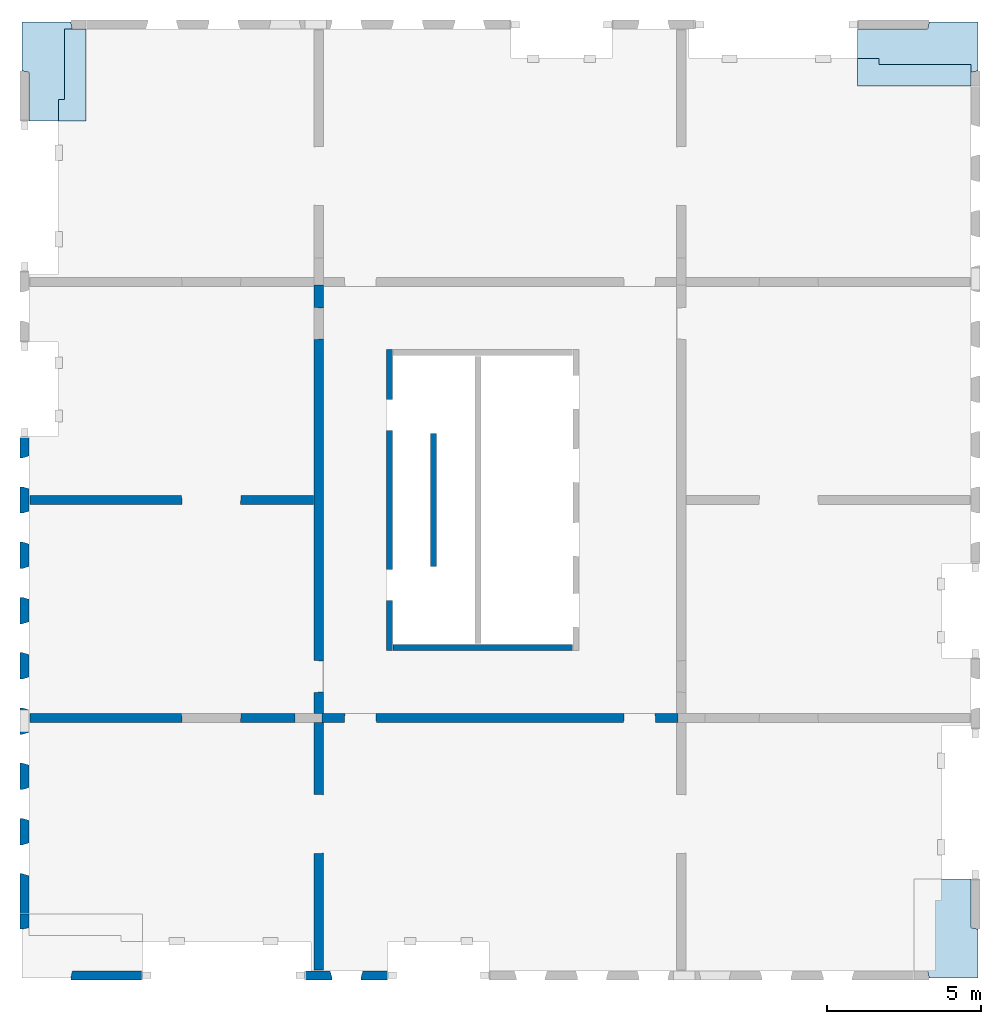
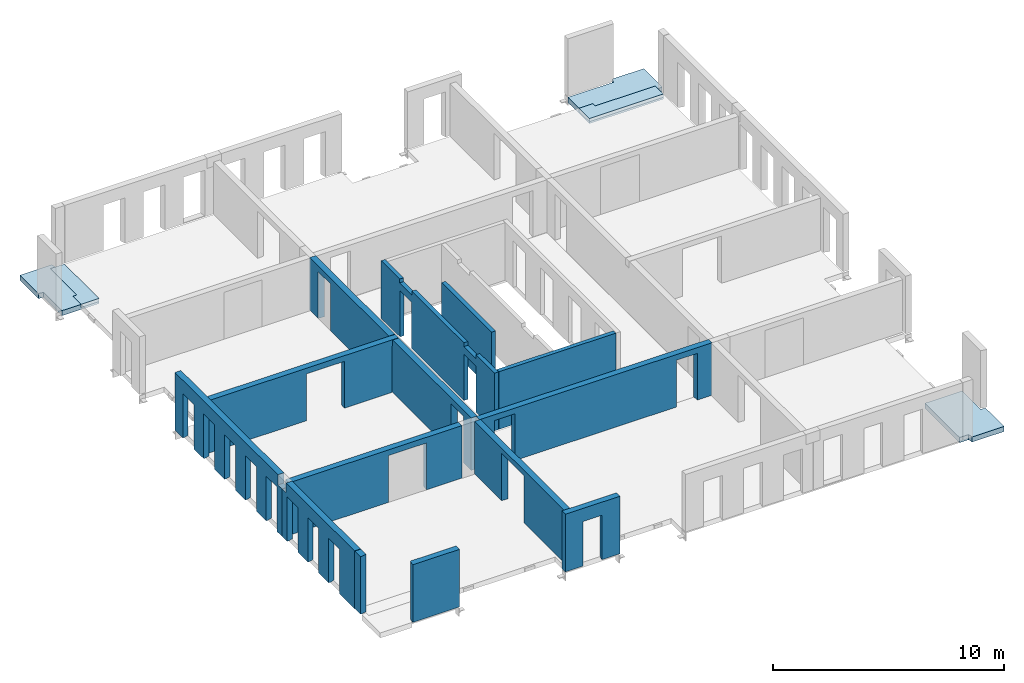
# One storey, part 2 of 4: 13 walls, 5 slabs, 26 openings.
"""IFC2X3 building model written with IfcOpenShell, lengths in millimetres."""

from ifc_helpers import new_model, entity, si_unit, converted_unit, derived_unit, direction, frame, frame_2d, origin, place, context, subcontext, project, spatial, polyline, rectangle, outline, extrude, faceted_brep, material, layer, layer_set, layer_usage, type_object, element, save


model = new_model("IFC2X3")

# Units and contexts
model_context = context("Model", 3, precision=0.01, world=origin(), true_north=direction((6.12303176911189e-17, 1.0)))
body_context = subcontext(model_context, "Body", "Model", "MODEL_VIEW")
ifc_project = project(units=[si_unit("LENGTHUNIT", "METRE", prefix="MILLI"), si_unit("AREAUNIT", "SQUARE_METRE"), si_unit("VOLUMEUNIT", "CUBIC_METRE"), converted_unit("PLANEANGLEUNIT", "DEGREE", entity("IfcRatioMeasure", 0.0174532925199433), si_unit("PLANEANGLEUNIT", "RADIAN"), dimensions=[0, 0, 0, 0, 0, 0, 0]), si_unit("MASSUNIT", "GRAM", prefix="KILO"), derived_unit("MASSDENSITYUNIT", [(si_unit("MASSUNIT", "GRAM", prefix="KILO"), 1), (si_unit("LENGTHUNIT", "METRE"), -3)]), si_unit("TIMEUNIT", "SECOND"), si_unit("FREQUENCYUNIT", "HERTZ"), si_unit("THERMODYNAMICTEMPERATUREUNIT", "DEGREE_CELSIUS"), derived_unit("THERMALTRANSMITTANCEUNIT", [(si_unit("MASSUNIT", "GRAM", prefix="KILO"), 1), (si_unit("THERMODYNAMICTEMPERATUREUNIT", "KELVIN"), -1), (si_unit("TIMEUNIT", "SECOND"), -3)]), derived_unit("VOLUMETRICFLOWRATEUNIT", [(si_unit("LENGTHUNIT", "METRE"), 3), (si_unit("TIMEUNIT", "SECOND"), -1)]), si_unit("ELECTRICCURRENTUNIT", "AMPERE"), si_unit("ELECTRICVOLTAGEUNIT", "VOLT"), si_unit("POWERUNIT", "WATT"), si_unit("FORCEUNIT", "NEWTON", prefix="KILO"), si_unit("ILLUMINANCEUNIT", "LUX"), si_unit("LUMINOUSFLUXUNIT", "LUMEN"), si_unit("LUMINOUSINTENSITYUNIT", "CANDELA"), derived_unit("USERDEFINED", [(si_unit("MASSUNIT", "GRAM", prefix="KILO"), -1), (si_unit("LENGTHUNIT", "METRE"), -2), (si_unit("TIMEUNIT", "SECOND"), 3), (si_unit("LUMINOUSFLUXUNIT", "LUMEN"), 1)]), derived_unit("LINEARVELOCITYUNIT", [(si_unit("LENGTHUNIT", "METRE"), 1), (si_unit("TIMEUNIT", "SECOND"), -1)]), si_unit("PRESSUREUNIT", "PASCAL"), derived_unit("USERDEFINED", [(si_unit("LENGTHUNIT", "METRE"), -2), (si_unit("MASSUNIT", "GRAM", prefix="KILO"), 1), (si_unit("TIMEUNIT", "SECOND"), -2)])], contexts=[model_context])

# Site, building, storey
site_placement = place(None, origin())
site = spatial("IfcSite", under=ifc_project, at=site_placement, Name="Default", CompositionType="ELEMENT")
building_placement = place(site_placement, origin())
building = spatial("IfcBuilding", under=site, at=building_placement, Name="niet gebruiken", CompositionType="ELEMENT")
storey_placement = place(building_placement, frame((0.0, 0.0, 128160.0)))
storey = spatial("IfcBuildingStorey", under=building, at=storey_placement, Name="41 eenenveertigste verdieping", CompositionType="ELEMENT", Elevation=128160.0)

# Slabs
ifc_material_1 = material(Name="NLRS_f2_beton prefab")
ifc_layer_1 = layer(ifc_material_1, 270.0)
ifc_layer_set_1 = layer_set([ifc_layer_1], Name="Floor:NLRS_23.22_FL_beton prefab d=270 3D element_gen")
ifc_layer_usage_1 = layer_usage(ifc_layer_set_1, "AXIS3", "POSITIVE", 0.0)
slab_1_placement = place(storey_placement, origin())
element("IfcSlab", 1, at=slab_1_placement, inside=storey, material=ifc_layer_usage_1, Name="Floor:NLRS_23.22_FL_beton prefab d=270 3D element_gen", ObjectType="Floor:NLRS_23.22_FL_beton prefab d=270 3D element_gen", PredefinedType="LANDING", context=body_context, shape_type="SweptSolid", body=[
    extrude(outline(polyline([(-322.675940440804, -982.471394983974), (1267.47139498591, -982.471394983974), (1267.47139498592, 607.675940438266), (1034.47139498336, 655.152429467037), (1034.47139498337, 1100.5286050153), (-1955.52860501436, 1100.52860501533), (-1955.52860501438, -749.471394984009), (-370.152429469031, -749.471394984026), (-322.675940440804, -982.471394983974)])), frame((127169.471394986, 31795.5286050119, -90.0), z_axis=(0.0, 0.0, -1.0), x_axis=(0.0, 1.0, 0.0)), (0.0, 0.0, 1.0), 270.000000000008),
])
ifc_material_2 = material(Name="NLRS_f2_beton ihwg")
ifc_layer_2 = layer(ifc_material_2, 170.0)
ifc_layer_set_2 = layer_set([ifc_layer_2], Name="Floor:NLRS_23.21_FL_beton ihwg d=170_gen")
ifc_layer_usage_2 = layer_usage(ifc_layer_set_2, "AXIS3", "POSITIVE", 0.0)
slab_2_placement = place(storey_placement, origin())
element("IfcSlab", 2, at=slab_2_placement, inside=storey, material=ifc_layer_usage_2, Name="Floor:NLRS_23.21_FL_beton ihwg d=170_gen", ObjectType="Floor:NLRS_23.21_FL_beton ihwg d=170_gen", PredefinedType="FLOOR", context=body_context, shape_type="SweptSolid", body=[
    extrude(outline(polyline([(-1230.0, -366.666666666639), (-530.0, -366.666666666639), (-530.0, -166.66666666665), (1760.0, -166.666666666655), (1760.0, 533.333333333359), (-1230.0, 533.333333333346), (-1230.0, -366.666666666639)])), frame((127736.666666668, 31070.0, -90.0), z_axis=(0.0, 0.0, -1.0), x_axis=(0.0, 1.0, 0.0)), (0.0, 0.0, 1.0), 169.999999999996),
])
ifc_layer_usage_3 = layer_usage(ifc_layer_set_1, "AXIS3", "POSITIVE", 0.0)
slab_3_placement = place(storey_placement, origin())
element("IfcSlab", 3, at=slab_3_placement, inside=storey, material=ifc_layer_usage_3, Name="Floor:NLRS_23.22_FL_beton prefab d=270 3D element_gen", ObjectType="Floor:NLRS_23.22_FL_beton prefab d=270 3D element_gen", PredefinedType="LANDING", context=body_context, shape_type="SweptSolid", body=[
    extrude(outline(polyline([(-1034.47139498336, -1100.52860501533), (1955.52860501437, -1100.52860501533), (1955.52860501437, 749.471394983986), (370.152429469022, 749.471394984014), (322.675940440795, 982.471394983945), (-1267.47139498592, 982.471394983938), (-1267.47139498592, -607.675940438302), (-1034.47139498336, -655.152429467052), (-1034.47139498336, -1100.52860501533)])), frame((156330.528605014, 3204.47139498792, -90.0), z_axis=(0.0, 0.0, -1.0), x_axis=(0.0, 1.0, 0.0)), (0.0, 0.0, 1.0), 270.000000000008),
])
ifc_layer_usage_4 = layer_usage(ifc_layer_set_1, "AXIS3", "POSITIVE", 0.0)
slab_4_placement = place(storey_placement, origin())
element("IfcSlab", 4, at=slab_4_placement, inside=storey, material=ifc_layer_usage_4, Name="Floor:NLRS_23.22_FL_beton prefab d=270 3D element_gen", ObjectType="Floor:NLRS_23.22_FL_beton prefab d=270 3D element_gen", PredefinedType="LANDING", context=body_context, shape_type="SweptSolid", body=[
    extrude(outline(polyline([(-1100.52860501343, -2480.52860501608), (749.471394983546, -2480.52860501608), (749.471394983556, -195.152429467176), (982.471394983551, -147.675940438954), (982.471394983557, 1442.47139498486), (-607.675940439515, 1442.47139498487), (-655.152429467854, 1209.47139498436), (-1100.52860501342, 1209.47139498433), (-1100.52860501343, -2480.52860501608)])), frame((155870.528605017, 32080.5286050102, -90.0), z_axis=(0.0, 0.0, -1.0), x_axis=(0.0, 1.0, 0.0)), (0.0, 0.0, 1.0), 270.000000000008),
])
ifc_layer_usage_5 = layer_usage(ifc_layer_set_2, "AXIS3", "POSITIVE", 0.0)
slab_5_placement = place(storey_placement, origin())
element("IfcSlab", 5, at=slab_5_placement, inside=storey, material=ifc_layer_usage_5, Name="Floor:NLRS_23.21_FL_beton ihwg d=170_gen", ObjectType="Floor:NLRS_23.21_FL_beton ihwg d=170_gen", PredefinedType="FLOOR", context=body_context, shape_type="SweptSolid", body=[
    extrude(outline(polyline([(-533.333333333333, -1463.33333333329), (366.666666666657, -1463.33333333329), (366.666666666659, -763.333333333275), (166.66666666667, -763.333333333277), (166.666666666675, 2226.66666666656), (-533.333333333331, 2226.66666666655), (-533.333333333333, -1463.33333333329)])), frame((154853.333333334, 31513.3333333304, -90.0), z_axis=(0.0, 0.0, -1.0), x_axis=(0.0, 1.0, 0.0)), (0.0, 0.0, 1.0), 169.999999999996),
])

# Wall, openings
ifc_layer_3 = layer(ifc_material_1, 200.0)
ifc_layer_set_3 = layer_set([ifc_layer_3], Name="Basic Wall:NLRS_22.21_WA_beton prefab d=200_gen")
ifc_layer_usage_6 = layer_usage(ifc_layer_set_3, "AXIS2", "NEGATIVE", 100.0)
wall_type_1 = type_object("IfcWallType", Name="Basic Wall:NLRS_22.21_WA_beton prefab d=200_gen", PredefinedType="STANDARD", material=ifc_layer_set_3)
wall_1_placement = place(storey_placement, frame((138150.0, 22400.0, -50.0), z_axis=(0.0, 0.0, 1.0), x_axis=(0.0, -1.0, 0.0)))
wall_1 = element("IfcWallStandardCase", 6, at=wall_1_placement, inside=storey, type_object=wall_type_1, material=ifc_layer_usage_6, Name="Basic Wall:NLRS_22.21_WA_beton prefab d=200_gen", ObjectType="Basic Wall:NLRS_22.21_WA_beton prefab d=200_gen", context=body_context, shape_type="SweptSolid", body=[
    extrude(rectangle(XDim=9800.0, YDim=199.999999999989, at=frame_2d((4900.0, 3.76587649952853e-13), x_axis=(-1.0, 0.0))), origin(), (0.0, 0.0, 1.0), 3040.0),
])
opening_1_placement = place(wall_1_placement, origin())
element("IfcOpeningElement", 7, at=opening_1_placement, cuts=wall_1, Name="Basic Wall:NLRS_22.21_WA_beton prefab d=200_gen", ObjectType="Opening", context=body_context, shape_type="SweptSolid", body=[
    extrude(rectangle(XDim=200.000000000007, YDim=1044.0, at=frame_2d((-8.66862137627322e-12, 0.0), x_axis=(1.0, 0.0))), frame((7672.0, -100.0, 2940.0), z_axis=(0.0, 1.0, 0.0), x_axis=(0.0, 0.0, -1.0)), (0.0, 0.0, 1.0), 199.999999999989),
])
opening_2_placement = place(wall_1_placement, origin())
element("IfcOpeningElement", 8, at=opening_2_placement, cuts=wall_1, Name="Basic Wall:NLRS_22.21_WA_beton prefab d=200_gen", ObjectType="Opening", context=body_context, shape_type="SweptSolid", body=[
    extrude(rectangle(XDim=200.000000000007, YDim=1044.0, at=frame_2d((-8.66862137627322e-12, 2.1600499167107e-12), x_axis=(1.0, 0.0))), frame((2128.0, -100.0, 2940.0), z_axis=(0.0, 1.0, 0.0), x_axis=(0.0, 0.0, -1.0)), (0.0, 0.0, 1.0), 199.999999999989),
])
opening_3_placement = place(wall_1_placement, origin())
element("IfcOpeningElement", 9, at=opening_3_placement, cuts=wall_1, Name="Basic Wall:NLRS_22.21_WA_beton prefab d=200_gen", ObjectType="Opening", context=body_context, shape_type="SweptSolid", body=[
    extrude(rectangle(XDim=2435.0, YDim=1015.99999999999, at=frame_2d((0.0, 1.10844666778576e-12), x_axis=(1.0, 0.0))), frame((7672.0, -100.0, 1217.50000000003), z_axis=(0.0, 1.0, 0.0), x_axis=(0.0, 0.0, -1.0)), (0.0, 0.0, 1.0), 199.999999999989),
])
opening_4_placement = place(wall_1_placement, origin())
element("IfcOpeningElement", 10, at=opening_4_placement, cuts=wall_1, Name="Basic Wall:NLRS_22.21_WA_beton prefab d=200_gen", ObjectType="Opening", context=body_context, shape_type="SweptSolid", body=[
    extrude(rectangle(XDim=2435.0, YDim=1015.99999999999, at=frame_2d((0.0, -2.18847162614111e-12), x_axis=(1.0, 0.0))), frame((2128.0, -100.0, 1217.50000000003), z_axis=(0.0, 1.0, 0.0), x_axis=(0.0, 0.0, -1.0)), (0.0, 0.0, 1.0), 199.999999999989),
])

# Walls
ifc_layer_usage_7 = layer_usage(ifc_layer_set_3, "AXIS2", "NEGATIVE", 100.0)
wall_2_placement = place(storey_placement, frame((139590.0, 19660.0, -50.0), z_axis=(0.0, 0.0, 1.0), x_axis=(0.0, -1.0, 0.0)))
element("IfcWallStandardCase", 11, at=wall_2_placement, inside=storey, type_object=wall_type_1, material=ifc_layer_usage_7, Name="Basic Wall:NLRS_22.21_WA_beton prefab d=200_gen", ObjectType="Basic Wall:NLRS_22.21_WA_beton prefab d=200_gen", context=body_context, shape_type="SweptSolid", body=[
    extrude(rectangle(XDim=4320.00000000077, YDim=199.999999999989, at=frame_2d((2160.00000000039, 0.0), x_axis=(-1.0, 0.0))), origin(), (0.0, 0.0, 1.0), 3040.0),
])
ifc_layer_usage_8 = layer_usage(ifc_layer_set_3, "AXIS2", "NEGATIVE", 100.0)
wall_3_placement = place(storey_placement, frame((138270.0, 12700.0, -50.0)))
element("IfcWallStandardCase", 12, at=wall_3_placement, inside=storey, type_object=wall_type_1, material=ifc_layer_usage_8, Name="Basic Wall:NLRS_22.21_WA_beton prefab d=200_gen", ObjectType="Basic Wall:NLRS_22.21_WA_beton prefab d=200_gen", context=body_context, shape_type="SweptSolid", body=[
    extrude(rectangle(XDim=5839.99999999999, YDim=199.999999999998, at=frame_2d((2919.99999999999, -6.82121026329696e-13), x_axis=(-1.0, 0.0))), origin(), (0.0, 0.0, 1.0), 3040.0),
])

# Wall, opening
ifc_layer_4 = layer(ifc_material_1, 300.0)
ifc_layer_set_4 = layer_set([ifc_layer_4], Name="Basic Wall:NLRS_22.21_WA_beton prefab d=300_gen")
ifc_layer_usage_9 = layer_usage(ifc_layer_set_4, "AXIS2", "NEGATIVE", 150.0)
wall_type_2 = type_object("IfcWallType", Name="Basic Wall:NLRS_22.21_WA_beton prefab d=300_gen", PredefinedType="STANDARD", material=ifc_layer_set_4)
wall_4_placement = place(storey_placement, frame((135850.0, 10250.0, -70.0), z_axis=(0.0, 0.0, 1.0), x_axis=(0.0, -1.0, 0.0)))
wall_4 = element("IfcWallStandardCase", 13, at=wall_4_placement, inside=storey, type_object=wall_type_2, material=ifc_layer_usage_9, Name="Basic Wall:NLRS_22.21_WA_beton prefab d=300_gen", ObjectType="Basic Wall:NLRS_22.21_WA_beton prefab d=300_gen", context=body_context, shape_type="SweptSolid", body=[
    extrude(rectangle(XDim=8059.99999999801, YDim=300.000000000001, at=frame_2d((4029.999999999, 1.22213350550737e-12), x_axis=(-1.0, 0.0))), origin(), (0.0, 0.0, 1.0), 2769.99999999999),
])
opening_5_placement = place(wall_4_placement, frame((4268.0, -150.0, 0.0)))
element("IfcOpeningElement", 14, at=opening_5_placement, cuts=wall_4, Name="Basic Wall:NLRS_22.21_WA_beton prefab d=300_gen", ObjectType="Opening", context=body_context, shape_type="Brep", body=[
    faceted_brep([(-18.0, 300.0, 2470.0), (-18.0, 300.0, 0.0), (-1918.0, 300.0, 0.0), (-1918.0, 300.0, 2470.0), (0.0, 0.0, 2488.0), (-1936.0, 0.0, 2488.0), (-1936.0, 0.0, 0.0), (0.0, 0.0, 0.0)], [[[0, 1, 2, 3]], [[4, 5, 6, 7]], [[4, 0, 3, 5]], [[5, 3, 2, 6]], [[6, 2, 1, 7]], [[7, 1, 0, 4]]]),
])

# Wall, openings
ifc_layer_usage_10 = layer_usage(ifc_layer_set_4, "AXIS2", "NEGATIVE", 150.0)
wall_5_placement = place(storey_placement, frame((135950.003540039, 10400.0, -70.0)))
wall_5 = element("IfcWallStandardCase", 15, at=wall_5_placement, inside=storey, type_object=wall_type_2, material=ifc_layer_usage_10, Name="Basic Wall:NLRS_22.21_WA_beton prefab d=300_gen", ObjectType="Basic Wall:NLRS_22.21_WA_beton prefab d=300_gen", context=body_context, shape_type="SweptSolid", body=[
    extrude(rectangle(XDim=11599.9964599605, YDim=300.000000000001, at=frame_2d((5799.99822998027, 1.70530256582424e-13), x_axis=(-1.0, 0.0))), origin(), (0.0, 0.0, 1.0), 2769.99999999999),
])
opening_6_placement = place(wall_5_placement, frame((731.996459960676, -150.0, 0.0)))
element("IfcOpeningElement", 16, at=opening_6_placement, cuts=wall_5, Name="Basic Wall:NLRS_22.21_WA_beton prefab d=300_gen", ObjectType="Opening", context=body_context, shape_type="Brep", body=[
    faceted_brep([(0.0, 0.0, 2466.0), (18.0, 300.0, 2448.0), (18.0, 300.0, 0.0), (0.0, 0.0, 0.0), (1024.0, 300.0, 0.0), (1042.0, 0.0, 0.0), (1024.0, 300.0, 2448.0), (1042.0, 0.0, 2466.0)], [[[0, 1, 2, 3]], [[3, 2, 4, 5]], [[6, 4, 2, 1]], [[7, 0, 3, 5]], [[7, 6, 1, 0]], [[5, 4, 6, 7]]]),
])
opening_7_placement = place(wall_5_placement, frame((9825.99645996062, -150.0, 0.0)))
element("IfcOpeningElement", 17, at=opening_7_placement, cuts=wall_5, Name="Basic Wall:NLRS_22.21_WA_beton prefab d=300_gen", ObjectType="Opening", context=body_context, shape_type="Brep", body=[
    faceted_brep([(0.0, 0.0, 2466.0), (18.0, 300.0, 2448.0), (18.0, 300.0, 0.0), (0.0, 0.0, 0.0), (1024.0, 300.0, 0.0), (1042.0, 0.0, 0.0), (1024.0, 300.0, 2448.0), (1042.0, 0.0, 2466.0)], [[[0, 1, 2, 3]], [[3, 2, 4, 5]], [[6, 4, 2, 1]], [[7, 0, 3, 5]], [[7, 6, 1, 0]], [[5, 4, 6, 7]]]),
])

ifc_layer_usage_11 = layer_usage(ifc_layer_set_4, "AXIS2", "NEGATIVE", 150.0)
wall_6_placement = place(storey_placement, frame((126440.0, 17500.0, -70.0)))
wall_6 = element("IfcWallStandardCase", 18, at=wall_6_placement, inside=storey, type_object=wall_type_2, material=ifc_layer_usage_11, Name="Basic Wall:NLRS_22.21_WA_beton prefab d=300_gen", ObjectType="Basic Wall:NLRS_22.21_WA_beton prefab d=300_gen", context=body_context, shape_type="SweptSolid", body=[
    extrude(rectangle(XDim=9559.9999999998, YDim=300.000000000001, at=frame_2d((4779.9999999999, -5.54223333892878e-13), x_axis=(-1.0, 0.0))), origin(), (0.0, 0.0, 1.0), 2769.99999999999),
])
opening_8_placement = place(wall_6_placement, frame((4942.0, -150.0, 0.0)))
element("IfcOpeningElement", 19, at=opening_8_placement, cuts=wall_6, Name="Basic Wall:NLRS_22.21_WA_beton prefab d=300_gen", ObjectType="Opening", context=body_context, shape_type="Brep", body=[
    faceted_brep([(1918.0, 0.0, 2470.0), (18.0, 0.0, 2470.0), (18.0, 0.0, 0.0), (1918.0, 0.0, 0.0), (1936.0, 300.0, 2488.0), (1936.0, 300.0, 0.0), (0.0, 300.0, 0.0), (0.0, 300.0, 2488.0)], [[[0, 1, 2, 3]], [[4, 5, 6, 7]], [[4, 7, 1, 0]], [[7, 6, 2, 1]], [[6, 5, 3, 2]], [[5, 4, 0, 3]]]),
])
opening_9_placement = place(wall_6_placement, origin())
element("IfcOpeningElement", 20, at=opening_9_placement, cuts=wall_6, Name="Basic Wall:NLRS_22.21_WA_beton prefab d=300_gen", ObjectType="Opening", context=body_context, shape_type="SweptSolid", body=[
    extrude(rectangle(XDim=2439.99999999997, YDim=319.999999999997, at=frame_2d((0.0, 0.0), x_axis=(0.0, 1.0))), frame((9400.0, 150.0, 1220.0), z_axis=(0.0, -1.0, 0.0), x_axis=(1.0, 0.0, 0.0)), (0.0, 0.0, 1.0), 300.0),
])

# Wall, opening
ifc_layer_usage_12 = layer_usage(ifc_layer_set_4, "AXIS2", "NEGATIVE", 150.0)
wall_7_placement = place(storey_placement, frame((126440.0, 10400.0, -70.0)))
wall_7 = element("IfcWallStandardCase", 21, at=wall_7_placement, inside=storey, type_object=wall_type_2, material=ifc_layer_usage_12, Name="Basic Wall:NLRS_22.21_WA_beton prefab d=300_gen", ObjectType="Basic Wall:NLRS_22.21_WA_beton prefab d=300_gen", context=body_context, shape_type="SweptSolid", body=[
    extrude(rectangle(XDim=8630.00354003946, YDim=300.000000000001, at=frame_2d((4315.00177001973, -2.70006239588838e-13), x_axis=(-1.0, 0.0))), origin(), (0.0, 0.0, 1.0), 2769.99999999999),
])
opening_10_placement = place(wall_7_placement, frame((4942.0, -150.0, 0.0)))
element("IfcOpeningElement", 22, at=opening_10_placement, cuts=wall_7, Name="Basic Wall:NLRS_22.21_WA_beton prefab d=300_gen", ObjectType="Opening", context=body_context, shape_type="Brep", body=[
    faceted_brep([(1918.0, 0.0, 2470.0), (18.0, 0.0, 2470.0), (18.0, 0.0, 0.0), (1918.0, 0.0, 0.0), (1936.0, 300.0, 2488.0), (1936.0, 300.0, 0.0), (0.0, 300.0, 0.0), (0.0, 300.0, 2488.0)], [[[0, 1, 2, 3]], [[4, 5, 6, 7]], [[4, 7, 1, 0]], [[7, 6, 2, 1]], [[6, 5, 3, 2]], [[5, 4, 0, 3]]]),
])

# Wall, openings
ifc_layer_usage_13 = layer_usage(ifc_layer_set_4, "AXIS2", "NEGATIVE", 150.0)
wall_8_placement = place(storey_placement, frame((135850.0, 24500.0, -70.0), z_axis=(0.0, 0.0, 1.0), x_axis=(0.0, -1.0, 0.0)))
wall_8 = element("IfcWallStandardCase", 23, at=wall_8_placement, inside=storey, type_object=wall_type_2, material=ifc_layer_usage_13, Name="Basic Wall:NLRS_22.21_WA_beton prefab d=300_gen", ObjectType="Basic Wall:NLRS_22.21_WA_beton prefab d=300_gen", context=body_context, shape_type="SweptSolid", body=[
    extrude(rectangle(XDim=13950.0, YDim=300.000000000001, at=frame_2d((6974.99999999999, 4.2632564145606e-14), x_axis=(-1.0, 0.0))), origin(), (0.0, 0.0, 1.0), 2769.99999999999),
])
opening_11_placement = place(wall_8_placement, frame((13268.0, -150.0, 0.0)))
element("IfcOpeningElement", 24, at=opening_11_placement, cuts=wall_8, Name="Basic Wall:NLRS_22.21_WA_beton prefab d=300_gen", ObjectType="Opening", context=body_context, shape_type="Brep", body=[
    faceted_brep([(-1042.0, 0.0, 2466.0), (-1024.0, 300.0, 2448.0), (-1024.0, 300.0, 0.0), (-1042.0, 0.0, 0.0), (-18.0, 300.0, 0.0), (0.0, 0.0, 0.0), (-18.0, 300.0, 2448.0), (0.0, 0.0, 2466.0)], [[[0, 1, 2, 3]], [[3, 2, 4, 5]], [[6, 4, 2, 1]], [[7, 0, 3, 5]], [[7, 6, 1, 0]], [[5, 4, 6, 7]]]),
])
opening_12_placement = place(wall_8_placement, frame((1774.0, -150.0, 0.0)))
element("IfcOpeningElement", 25, at=opening_12_placement, cuts=wall_8, Name="Basic Wall:NLRS_22.21_WA_beton prefab d=300_gen", ObjectType="Opening", context=body_context, shape_type="Brep", body=[
    faceted_brep([(-1042.0, 0.0, 2466.0), (-1024.0, 300.0, 2448.0), (-1024.0, 300.0, 0.0), (-1042.0, 0.0, 0.0), (-18.0, 300.0, 0.0), (0.0, 0.0, 0.0), (-18.0, 300.0, 2448.0), (0.0, 0.0, 2466.0)], [[[0, 1, 2, 3]], [[3, 2, 4, 5]], [[6, 4, 2, 1]], [[7, 0, 3, 5]], [[7, 6, 1, 0]], [[5, 4, 6, 7]]]),
])
opening_13_placement = place(wall_8_placement, origin())
element("IfcOpeningElement", 26, at=opening_13_placement, cuts=wall_8, Name="Basic Wall:NLRS_22.21_WA_beton prefab d=300_gen", ObjectType="Opening", context=body_context, shape_type="SweptSolid", body=[
    extrude(rectangle(XDim=350.000000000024, YDim=339.999999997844, at=frame_2d((0.0, 0.0), x_axis=(0.0, 1.0))), frame((7000.0, 150.0, 2595.0), z_axis=(0.0, -1.0, 0.0), x_axis=(-1.0, 0.0, 0.0)), (0.0, 0.0, 1.0), 300.0),
])

# Wall, opening
ifc_layer_5 = layer(ifc_material_1, 300.0)
ifc_layer_set_5 = layer_set([ifc_layer_5], Name="Basic Wall:NLRS_21.21_WA_beton prefab d=300/320_gen")
ifc_layer_usage_14 = layer_usage(ifc_layer_set_5, "AXIS2", "NEGATIVE", 150.0)
wall_type_3 = type_object("IfcWallType", Name="Basic Wall:NLRS_21.21_WA_beton prefab d=300/320_gen", PredefinedType="STANDARD", material=ifc_layer_set_5)
wall_9_placement = place(storey_placement, frame((138110.0, 2020.0, -50.0), z_axis=(0.0, 0.0, 1.0), x_axis=(-1.0, 0.0, 0.0)))
wall_9 = element("IfcWallStandardCase", 27, at=wall_9_placement, inside=storey, type_object=wall_type_3, material=ifc_layer_usage_14, Name="Basic Wall:NLRS_21.21_WA_beton prefab d=300/320_gen", ObjectType="Basic Wall:NLRS_21.21_WA_beton prefab d=300/320_gen", context=body_context, shape_type="SweptSolid", body=[
    extrude(rectangle(XDim=2720.00000000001, YDim=300.0, at=frame_2d((1360.0, -8.5265128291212e-14), x_axis=(-1.0, 0.0))), origin(), (0.0, 0.0, 1.0), 3040.0),
])
opening_14_placement = place(wall_9_placement, frame((1895.0, 150.0, -20.0)))
element("IfcOpeningElement", 28, at=opening_14_placement, cuts=wall_9, Name="Basic Wall:NLRS_21.21_WA_beton prefab d=300/320_gen", ObjectType="Opening", context=body_context, shape_type="Brep", body=[
    faceted_brep([(-1070.0, -300.0, 2405.0), (-1070.0, -300.0, 0.0), (0.0, -300.0, 0.0), (0.0, -300.0, 2405.0), (-65.0, -81.0, 2370.0), (-1005.0, -81.0, 2370.0), (-65.0, -81.0, 0.0), (-1005.0, -81.0, 0.0), (-1005.0, 0.0, 0.0), (-65.0, 0.0, 0.0), (-1005.0, 0.0, 2370.0), (-65.0, 0.0, 2370.0)], [[[0, 1, 2, 3]], [[3, 4, 5, 0]], [[2, 6, 4, 3]], [[1, 7, 8, 9, 6, 2]], [[0, 5, 7, 1]], [[10, 11, 9, 8]], [[10, 5, 4, 11]], [[11, 4, 6, 9]], [[8, 7, 5, 10]]]),
])

# Wall, openings
ifc_layer_usage_15 = layer_usage(ifc_layer_set_5, "AXIS2", "NEGATIVE", 150.0)
wall_10_placement = place(storey_placement, frame((126270.0, 4040.0, -50.0), z_axis=(0.0, 0.0, 1.0), x_axis=(0.0, 1.0, 0.0)))
wall_10 = element("IfcWallStandardCase", 29, at=wall_10_placement, inside=storey, type_object=wall_type_3, material=ifc_layer_usage_15, Name="Basic Wall:NLRS_21.21_WA_beton prefab d=300/320_gen", ObjectType="Basic Wall:NLRS_21.21_WA_beton prefab d=300/320_gen", context=body_context, shape_type="SweptSolid", body=[
    extrude(rectangle(XDim=6249.99999999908, YDim=300.000000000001, at=frame_2d((3124.99999999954, 0.0), x_axis=(-1.0, 0.0))), origin(), (0.0, 0.0, 1.0), 3040.0),
])
opening_15_placement = place(wall_10_placement, frame((1225.0, 150.0, -20.0)))
element("IfcOpeningElement", 30, at=opening_15_placement, cuts=wall_10, Name="Basic Wall:NLRS_21.21_WA_beton prefab d=300/320_gen", ObjectType="Opening", context=body_context, shape_type="Brep", body=[
    faceted_brep([(0.0, -300.0, 2405.0), (0.0, -300.0, 0.0), (1070.0, -300.0, 0.0), (1070.0, -300.0, 2405.0), (1005.0, -81.0, 2370.0), (65.0, -81.0, 2370.0), (1005.0, -81.0, 0.0), (65.0, -81.0, 0.0), (65.0, 0.0, 0.0), (1005.0, 0.0, 0.0), (65.0, 0.0, 2370.0), (1005.0, 0.0, 2370.0)], [[[0, 1, 2, 3]], [[3, 4, 5, 0]], [[2, 6, 4, 3]], [[1, 7, 8, 9, 6, 2]], [[0, 5, 7, 1]], [[10, 11, 9, 8]], [[10, 5, 4, 11]], [[11, 4, 6, 9]], [[8, 7, 5, 10]]]),
])
opening_16_placement = place(wall_10_placement, frame((3025.0, 150.0, -20.0)))
element("IfcOpeningElement", 31, at=opening_16_placement, cuts=wall_10, Name="Basic Wall:NLRS_21.21_WA_beton prefab d=300/320_gen", ObjectType="Opening", context=body_context, shape_type="Brep", body=[
    faceted_brep([(0.0, -300.0, 2405.0), (0.0, -300.0, 0.0), (1070.0, -300.0, 0.0), (1070.0, -300.0, 2405.0), (1005.0, -81.0, 2370.0), (65.0, -81.0, 2370.0), (1005.0, -81.0, 0.0), (65.0, -81.0, 0.0), (65.0, 0.0, 0.0), (1005.0, 0.0, 0.0), (65.0, 0.0, 2370.0), (1005.0, 0.0, 2370.0)], [[[0, 1, 2, 3]], [[3, 4, 5, 0]], [[2, 6, 4, 3]], [[1, 7, 8, 9, 6, 2]], [[0, 5, 7, 1]], [[10, 11, 9, 8]], [[10, 5, 4, 11]], [[11, 4, 6, 9]], [[8, 7, 5, 10]]]),
])
opening_17_placement = place(wall_10_placement, frame((4825.0, 150.0, -20.0)))
element("IfcOpeningElement", 32, at=opening_17_placement, cuts=wall_10, Name="Basic Wall:NLRS_21.21_WA_beton prefab d=300/320_gen", ObjectType="Opening", context=body_context, shape_type="Brep", body=[
    faceted_brep([(0.0, -300.0, 2405.0), (0.0, -300.0, 0.0), (1070.0, -300.0, 0.0), (1070.0, -300.0, 2405.0), (1005.0, -81.0, 2370.0), (65.0, -81.0, 2370.0), (1005.0, -81.0, 0.0), (65.0, -81.0, 0.0), (65.0, 0.0, 0.0), (1005.0, 0.0, 0.0), (65.0, 0.0, 2370.0), (1005.0, 0.0, 2370.0)], [[[0, 1, 2, 3]], [[3, 4, 5, 0]], [[2, 6, 4, 3]], [[1, 7, 8, 9, 6, 2]], [[0, 5, 7, 1]], [[10, 11, 9, 8]], [[10, 5, 4, 11]], [[11, 4, 6, 9]], [[8, 7, 5, 10]]]),
])
opening_18_placement = place(wall_10_placement, origin())
element("IfcOpeningElement", 33, at=opening_18_placement, cuts=wall_10, Name="Basic Wall:NLRS_21.21_WA_beton prefab d=300/320_gen", ObjectType="Opening", context=body_context, shape_type="SweptSolid", body=[
    extrude(rectangle(XDim=534.99999999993, YDim=344.999999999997, at=frame_2d((0.0, 1.08002495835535e-12), x_axis=(1.0, 0.0))), frame((6077.49999999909, 150.0, 2772.50000000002), z_axis=(0.0, -1.0, 0.0), x_axis=(0.0, 0.0, 1.0)), (0.0, 0.0, 1.0), 300.0),
])

# Wall, opening
ifc_layer_usage_16 = layer_usage(ifc_layer_set_5, "AXIS2", "NEGATIVE", 150.0)
wall_11_placement = place(storey_placement, frame((130110.0, 2020.0, -50.0), z_axis=(0.0, 0.0, 1.0), x_axis=(-1.0, 0.0, 0.0)))
wall_11 = element("IfcWallStandardCase", 34, at=wall_11_placement, inside=storey, type_object=wall_type_3, material=ifc_layer_usage_16, Name="Basic Wall:NLRS_21.21_WA_beton prefab d=300/320_gen", ObjectType="Basic Wall:NLRS_21.21_WA_beton prefab d=300/320_gen", context=body_context, shape_type="SweptSolid", body=[
    extrude(rectangle(XDim=2330.00000000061, YDim=300.0, at=frame_2d((1165.00000000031, -5.6843418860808e-14), x_axis=(-1.0, 0.0))), origin(), (0.0, 0.0, 1.0), 3040.0),
])
opening_19_placement = place(wall_11_placement, frame((2330.0, 69.0, 0.0)))
element("IfcOpeningElement", 35, at=opening_19_placement, cuts=wall_11, Name="Basic Wall:NLRS_21.21_WA_beton prefab d=300/320_gen", ObjectType="Opening", context=body_context, shape_type="Brep", body=[
    faceted_brep([(0.0, -319.0, 3040.0), (0.0, 0.0, 3040.0), (-65.0, -319.0, 3040.0), (0.0, -319.0, 0.0), (-65.0, -319.0, 0.0), (0.0, 0.0, 0.0)], [[[0, 1, 2]], [[3, 4, 5]], [[2, 4, 3, 0]], [[0, 3, 5, 1]], [[1, 5, 4, 2]]]),
])

ifc_layer_usage_17 = layer_usage(ifc_layer_set_5, "AXIS2", "NEGATIVE", 150.0)
wall_12_placement = place(storey_placement, frame((126270.0, 3530.0, -50.0), z_axis=(0.0, 0.0, 1.0), x_axis=(0.0, 1.0, 0.0)))
wall_12 = element("IfcWallStandardCase", 36, at=wall_12_placement, inside=storey, type_object=wall_type_3, material=ifc_layer_usage_17, Name="Basic Wall:NLRS_21.21_WA_beton prefab d=300/320_gen", ObjectType="Basic Wall:NLRS_21.21_WA_beton prefab d=300/320_gen", context=body_context, shape_type="SweptSolid", body=[
    extrude(rectangle(XDim=489.999999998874, YDim=300.000000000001, at=frame_2d((244.999999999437, -3.25428572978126e-12), x_axis=(-1.0, 0.0))), origin(), (0.0, 0.0, 1.0), 3040.0),
])
opening_20_placement = place(wall_12_placement, frame((-1.97405825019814e-09, 69.0, 0.0)))
element("IfcOpeningElement", 37, at=opening_20_placement, cuts=wall_12, Name="Basic Wall:NLRS_21.21_WA_beton prefab d=300/320_gen", ObjectType="Opening", context=body_context, shape_type="Brep", body=[
    faceted_brep([(0.0, -319.0, 3040.0), (65.0, -319.0, 3040.0), (0.0, 0.0, 3040.0), (0.0, -319.0, 0.0), (0.0, 0.0, 0.0), (65.0, -319.0, 0.0)], [[[0, 1, 2]], [[3, 4, 5]], [[1, 0, 3, 5]], [[0, 2, 4, 3]], [[2, 1, 5, 4]]]),
])

# Wall, openings
ifc_layer_usage_18 = layer_usage(ifc_layer_set_5, "AXIS2", "NEGATIVE", 150.0)
wall_13_placement = place(storey_placement, frame((126270.0, 10310.0, -50.0), z_axis=(0.0, 0.0, 1.0), x_axis=(0.0, 1.0, 0.0)))
wall_13 = element("IfcWallStandardCase", 38, at=wall_13_placement, inside=storey, type_object=wall_type_3, material=ifc_layer_usage_18, Name="Basic Wall:NLRS_21.21_WA_beton prefab d=300/320_gen", ObjectType="Basic Wall:NLRS_21.21_WA_beton prefab d=300/320_gen", context=body_context, shape_type="SweptSolid", body=[
    extrude(rectangle(XDim=9250.00000000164, YDim=300.000000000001, at=frame_2d((4625.00000000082, 0.0), x_axis=(-1.0, 0.0))), origin(), (0.0, 0.0, 1.0), 3040.0),
])
opening_21_placement = place(wall_13_placement, frame((7555.0, 150.0, -20.0)))
element("IfcOpeningElement", 39, at=opening_21_placement, cuts=wall_13, Name="Basic Wall:NLRS_21.21_WA_beton prefab d=300/320_gen", ObjectType="Opening", context=body_context, shape_type="Brep", body=[
    faceted_brep([(0.0, -300.0, 2405.0), (0.0, -300.0, 0.0), (1070.0, -300.0, 0.0), (1070.0, -300.0, 2405.0), (1005.0, -81.0, 2370.0), (65.0, -81.0, 2370.0), (1005.0, -81.0, 0.0), (65.0, -81.0, 0.0), (65.0, 0.0, 0.0), (1005.0, 0.0, 0.0), (65.0, 0.0, 2370.0), (1005.0, 0.0, 2370.0)], [[[0, 1, 2, 3]], [[3, 4, 5, 0]], [[2, 6, 4, 3]], [[1, 7, 8, 9, 6, 2]], [[0, 5, 7, 1]], [[10, 11, 9, 8]], [[10, 5, 4, 11]], [[11, 4, 6, 9]], [[8, 7, 5, 10]]]),
])
opening_22_placement = place(wall_13_placement, frame((3955.0, 150.0, -20.0)))
element("IfcOpeningElement", 40, at=opening_22_placement, cuts=wall_13, Name="Basic Wall:NLRS_21.21_WA_beton prefab d=300/320_gen", ObjectType="Opening", context=body_context, shape_type="Brep", body=[
    faceted_brep([(0.0, -300.0, 2405.0), (0.0, -300.0, 0.0), (1070.0, -300.0, 0.0), (1070.0, -300.0, 2405.0), (1005.0, -81.0, 2370.0), (65.0, -81.0, 2370.0), (1005.0, -81.0, 0.0), (65.0, -81.0, 0.0), (65.0, 0.0, 0.0), (1005.0, 0.0, 0.0), (65.0, 0.0, 2370.0), (1005.0, 0.0, 2370.0)], [[[0, 1, 2, 3]], [[3, 4, 5, 0]], [[2, 6, 4, 3]], [[1, 7, 8, 9, 6, 2]], [[0, 5, 7, 1]], [[10, 11, 9, 8]], [[10, 5, 4, 11]], [[11, 4, 6, 9]], [[8, 7, 5, 10]]]),
])
opening_23_placement = place(wall_13_placement, frame((2155.0, 150.0, -20.0)))
element("IfcOpeningElement", 41, at=opening_23_placement, cuts=wall_13, Name="Basic Wall:NLRS_21.21_WA_beton prefab d=300/320_gen", ObjectType="Opening", context=body_context, shape_type="Brep", body=[
    faceted_brep([(0.0, -300.0, 2405.0), (0.0, -300.0, 0.0), (1070.0, -300.0, 0.0), (1070.0, -300.0, 2405.0), (1005.0, -81.0, 2370.0), (65.0, -81.0, 2370.0), (1005.0, -81.0, 0.0), (65.0, -81.0, 0.0), (65.0, 0.0, 0.0), (1005.0, 0.0, 0.0), (65.0, 0.0, 2370.0), (1005.0, 0.0, 2370.0)], [[[0, 1, 2, 3]], [[3, 4, 5, 0]], [[2, 6, 4, 3]], [[1, 7, 8, 9, 6, 2]], [[0, 5, 7, 1]], [[10, 11, 9, 8]], [[10, 5, 4, 11]], [[11, 4, 6, 9]], [[8, 7, 5, 10]]]),
])
opening_24_placement = place(wall_13_placement, frame((5755.0, 150.0, -20.0)))
element("IfcOpeningElement", 42, at=opening_24_placement, cuts=wall_13, Name="Basic Wall:NLRS_21.21_WA_beton prefab d=300/320_gen", ObjectType="Opening", context=body_context, shape_type="Brep", body=[
    faceted_brep([(0.0, -300.0, 2405.0), (0.0, -300.0, 0.0), (1070.0, -300.0, 0.0), (1070.0, -300.0, 2405.0), (1005.0, -81.0, 2370.0), (65.0, -81.0, 2370.0), (1005.0, -81.0, 0.0), (65.0, -81.0, 0.0), (65.0, 0.0, 0.0), (1005.0, 0.0, 0.0), (65.0, 0.0, 2370.0), (1005.0, 0.0, 2370.0)], [[[0, 1, 2, 3]], [[3, 4, 5, 0]], [[2, 6, 4, 3]], [[1, 7, 8, 9, 6, 2]], [[0, 5, 7, 1]], [[10, 11, 9, 8]], [[10, 5, 4, 11]], [[11, 4, 6, 9]], [[8, 7, 5, 10]]]),
])
opening_25_placement = place(wall_13_placement, frame((355.0, 150.0, -20.0)))
element("IfcOpeningElement", 43, at=opening_25_placement, cuts=wall_13, Name="Basic Wall:NLRS_21.21_WA_beton prefab d=300/320_gen", ObjectType="Opening", context=body_context, shape_type="Brep", body=[
    faceted_brep([(1070.0, -300.0, 2405.0), (0.0, -300.0, 2405.0), (0.0, -300.0, 0.0), (1070.0, -300.0, 0.0), (1005.0, -81.0, 2370.0), (65.0, -81.0, 2370.0), (65.0, -81.0, 0.0), (65.0, 0.0, 0.0), (1005.0, 0.0, 0.0), (1005.0, -81.0, 0.0), (1005.0, 0.0, 2370.0), (65.0, 0.0, 2370.0)], [[[0, 1, 2, 3]], [[1, 0, 4, 5]], [[2, 1, 5, 6]], [[3, 2, 6, 7, 8, 9]], [[0, 3, 9, 4]], [[10, 8, 7, 11]], [[10, 11, 5, 4]], [[11, 7, 6, 5]], [[8, 10, 4, 9]]]),
])
opening_26_placement = place(wall_13_placement, origin())
element("IfcOpeningElement", 44, at=opening_26_placement, cuts=wall_13, Name="Basic Wall:NLRS_21.21_WA_beton prefab d=300/320_gen", ObjectType="Opening", context=body_context, shape_type="SweptSolid", body=[
    extrude(rectangle(XDim=534.999999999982, YDim=345.000000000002, at=frame_2d((1.08002495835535e-12, -8.66862137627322e-12), x_axis=(0.0, 1.0))), frame((172.500000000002, 150.0, 2772.5), z_axis=(0.0, -1.0, 0.0), x_axis=(-1.0, 0.0, 0.0)), (0.0, 0.0, 1.0), 300.0),
])

save(model, "model.ifc")
